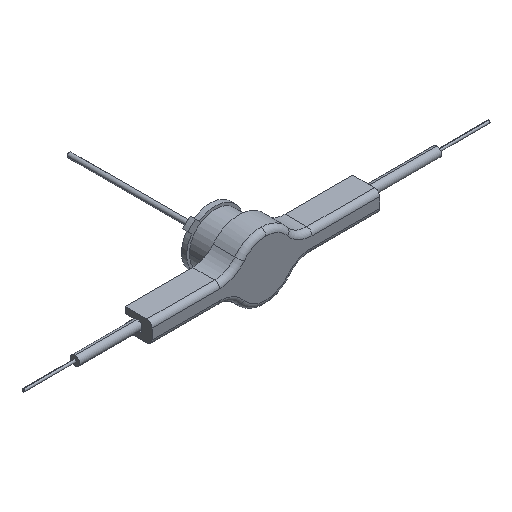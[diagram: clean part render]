
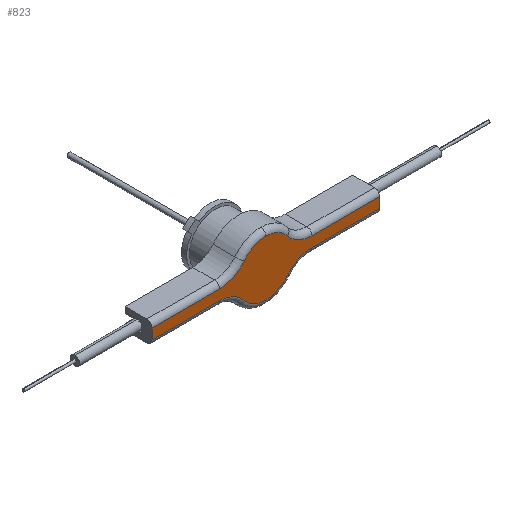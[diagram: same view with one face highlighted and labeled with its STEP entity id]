
A CAD part, isometric view. The second image highlights one B-rep face of the part: STEP entity #823.
In plain terms, the highlighted planar face has unit normal (0, -1, 0).
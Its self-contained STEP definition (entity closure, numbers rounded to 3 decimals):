
#10 = ORIENTED_EDGE ( 'NONE', *, *, #531, .T. ) ;
#11 = AXIS2_PLACEMENT_3D ( 'NONE', #841, #2144, #695 ) ;
#20 = DIRECTION ( 'NONE',  ( 0., -1., 0. ) ) ;
#29 = VECTOR ( 'NONE', #2217, 1000. ) ;
#35 = ORIENTED_EDGE ( 'NONE', *, *, #845, .F. ) ;
#41 = VECTOR ( 'NONE', #1302, 1000. ) ;
#120 = CARTESIAN_POINT ( 'NONE',  ( 0., 0., 2.675 ) ) ;
#133 = CIRCLE ( 'NONE', #1994, 3. ) ;
#145 = CARTESIAN_POINT ( 'NONE',  ( 4.467, 0., 3.5 ) ) ;
#166 = EDGE_CURVE ( 'NONE', #1052, #482, #2057, .T. ) ;
#192 = CARTESIAN_POINT ( 'NONE',  ( 0., 0., 0. ) ) ;
#194 = AXIS2_PLACEMENT_3D ( 'NONE', #1814, #720, #2054 ) ;
#230 = ORIENTED_EDGE ( 'NONE', *, *, #1255, .T. ) ;
#293 = ORIENTED_EDGE ( 'NONE', *, *, #1489, .T. ) ;
#343 = CARTESIAN_POINT ( 'NONE',  ( -4.467, 0., 0.5 ) ) ;
#398 = CARTESIAN_POINT ( 'NONE',  ( -11., 0., 0.5 ) ) ;
#408 = DIRECTION ( 'NONE',  ( 1., 0., 0. ) ) ;
#411 = VERTEX_POINT ( 'NONE', #1540 ) ;
#423 = CARTESIAN_POINT ( 'NONE',  ( 11., 0., -1. ) ) ;
#449 = CARTESIAN_POINT ( 'NONE',  ( 11., 0., 0.5 ) ) ;
#472 = CIRCLE ( 'NONE', #809, 2.675 ) ;
#481 = CARTESIAN_POINT ( 'NONE',  ( -11., 0., -0.5 ) ) ;
#482 = VERTEX_POINT ( 'NONE', #2264 ) ;
#493 = ORIENTED_EDGE ( 'NONE', *, *, #658, .T. ) ;
#507 = DIRECTION ( 'NONE',  ( 0., 0., 1. ) ) ;
#526 = CIRCLE ( 'NONE', #993, 2.675 ) ;
#531 = EDGE_CURVE ( 'NONE', #411, #1854, #2308, .T. ) ;
#643 = AXIS2_PLACEMENT_3D ( 'NONE', #2170, #906, #1612 ) ;
#646 = VECTOR ( 'NONE', #1938, 1000. ) ;
#658 = EDGE_CURVE ( 'NONE', #826, #2313, #2190, .T. ) ;
#682 = DIRECTION ( 'NONE',  ( 0., 0., 1. ) ) ;
#695 = DIRECTION ( 'NONE',  ( 0., 0., 1. ) ) ;
#720 = DIRECTION ( 'NONE',  ( 0., 1., 0. ) ) ;
#734 = LINE ( 'NONE', #1124, #1792 ) ;
#738 = DIRECTION ( 'NONE',  ( 0., 1., 0. ) ) ;
#783 = VERTEX_POINT ( 'NONE', #1245 ) ;
#796 = CARTESIAN_POINT ( 'NONE',  ( 0., 0., 0. ) ) ;
#804 = EDGE_CURVE ( 'NONE', #1659, #2014, #2186, .T. ) ;
#809 = AXIS2_PLACEMENT_3D ( 'NONE', #192, #20, #2220 ) ;
#810 = ORIENTED_EDGE ( 'NONE', *, *, #166, .F. ) ;
#818 = LINE ( 'NONE', #1839, #2187 ) ;
#823 = ADVANCED_FACE ( 'NONE', ( #2041 ), #2011, .F. ) ;
#826 = VERTEX_POINT ( 'NONE', #2206 ) ;
#837 = EDGE_CURVE ( 'NONE', #1231, #411, #472, .T. ) ;
#841 = CARTESIAN_POINT ( 'NONE',  ( 4.467, 0., -3.5 ) ) ;
#845 = EDGE_CURVE ( 'NONE', #1132, #2014, #1871, .T. ) ;
#872 = DIRECTION ( 'NONE',  ( 0., 1., 0. ) ) ;
#878 = AXIS2_PLACEMENT_3D ( 'NONE', #145, #2343, #507 ) ;
#882 = CARTESIAN_POINT ( 'NONE',  ( -4.467, 0., 3.5 ) ) ;
#906 = DIRECTION ( 'NONE',  ( 0., -1., 0. ) ) ;
#956 = ORIENTED_EDGE ( 'NONE', *, *, #1918, .T. ) ;
#974 = DIRECTION ( 'NONE',  ( 0., 0., 1. ) ) ;
#993 = AXIS2_PLACEMENT_3D ( 'NONE', #796, #2283, #974 ) ;
#1052 = VERTEX_POINT ( 'NONE', #449 ) ;
#1117 = DIRECTION ( 'NONE',  ( -1., 0., 0. ) ) ;
#1119 = LINE ( 'NONE', #1948, #646 ) ;
#1120 = DIRECTION ( 'NONE',  ( 0., 0., 1. ) ) ;
#1124 = CARTESIAN_POINT ( 'NONE',  ( 0., 0., -0.5 ) ) ;
#1132 = VERTEX_POINT ( 'NONE', #481 ) ;
#1140 = ORIENTED_EDGE ( 'NONE', *, *, #837, .T. ) ;
#1211 = CARTESIAN_POINT ( 'NONE',  ( -2.106, 0., -1.65 ) ) ;
#1213 = CIRCLE ( 'NONE', #194, 3. ) ;
#1231 = VERTEX_POINT ( 'NONE', #1211 ) ;
#1245 = CARTESIAN_POINT ( 'NONE',  ( -4.467, 0., -0.5 ) ) ;
#1255 = EDGE_CURVE ( 'NONE', #1132, #783, #1119, .T. ) ;
#1274 = CARTESIAN_POINT ( 'NONE',  ( 4.467, 0., -0.5 ) ) ;
#1302 = DIRECTION ( 'NONE',  ( 0., 0., -1. ) ) ;
#1309 = ORIENTED_EDGE ( 'NONE', *, *, #1710, .T. ) ;
#1337 = ORIENTED_EDGE ( 'NONE', *, *, #1677, .T. ) ;
#1369 = ORIENTED_EDGE ( 'NONE', *, *, #1567, .T. ) ;
#1377 = EDGE_CURVE ( 'NONE', #1052, #2065, #818, .T. ) ;
#1469 = CARTESIAN_POINT ( 'NONE',  ( 0., 0., 0.5 ) ) ;
#1489 = EDGE_CURVE ( 'NONE', #1854, #482, #734, .T. ) ;
#1520 = CIRCLE ( 'NONE', #878, 3. ) ;
#1540 = CARTESIAN_POINT ( 'NONE',  ( 2.106, 0., -1.65 ) ) ;
#1567 = EDGE_CURVE ( 'NONE', #2313, #2199, #526, .T. ) ;
#1612 = DIRECTION ( 'NONE',  ( 0., 0., 1. ) ) ;
#1623 = ORIENTED_EDGE ( 'NONE', *, *, #1377, .T. ) ;
#1639 = VECTOR ( 'NONE', #1653, 1000. ) ;
#1653 = DIRECTION ( 'NONE',  ( 0., 0., 1. ) ) ;
#1659 = VERTEX_POINT ( 'NONE', #343 ) ;
#1677 = EDGE_CURVE ( 'NONE', #2199, #1659, #133, .T. ) ;
#1710 = EDGE_CURVE ( 'NONE', #2065, #826, #1520, .T. ) ;
#1792 = VECTOR ( 'NONE', #408, 1000. ) ;
#1814 = CARTESIAN_POINT ( 'NONE',  ( -4.467, 0., -3.5 ) ) ;
#1834 = CARTESIAN_POINT ( 'NONE',  ( 0., 0., 0. ) ) ;
#1839 = CARTESIAN_POINT ( 'NONE',  ( 0., 0., 0.5 ) ) ;
#1852 = CARTESIAN_POINT ( 'NONE',  ( 4.467, 0., 0.5 ) ) ;
#1854 = VERTEX_POINT ( 'NONE', #1274 ) ;
#1856 = CARTESIAN_POINT ( 'NONE',  ( -11., 0., -1. ) ) ;
#1871 = LINE ( 'NONE', #1856, #1639 ) ;
#1918 = EDGE_CURVE ( 'NONE', #783, #1231, #1213, .T. ) ;
#1933 = EDGE_LOOP ( 'NONE', ( #10, #293, #810, #1623, #1309, #493, #1369, #1337, #2172, #35, #230, #956, #1140 ) ) ;
#1938 = DIRECTION ( 'NONE',  ( 1., 0., 0. ) ) ;
#1948 = CARTESIAN_POINT ( 'NONE',  ( 0., 0., -0.5 ) ) ;
#1994 = AXIS2_PLACEMENT_3D ( 'NONE', #882, #872, #682 ) ;
#2011 = PLANE ( 'NONE',  #2035 ) ;
#2014 = VERTEX_POINT ( 'NONE', #398 ) ;
#2035 = AXIS2_PLACEMENT_3D ( 'NONE', #1834, #738, #1120 ) ;
#2041 = FACE_OUTER_BOUND ( 'NONE', #1933, .T. ) ;
#2054 = DIRECTION ( 'NONE',  ( 0., 0., 1. ) ) ;
#2057 = LINE ( 'NONE', #423, #41 ) ;
#2065 = VERTEX_POINT ( 'NONE', #1852 ) ;
#2144 = DIRECTION ( 'NONE',  ( 0., 1., 0. ) ) ;
#2170 = CARTESIAN_POINT ( 'NONE',  ( 0., 0., 0. ) ) ;
#2172 = ORIENTED_EDGE ( 'NONE', *, *, #804, .T. ) ;
#2186 = LINE ( 'NONE', #1469, #29 ) ;
#2187 = VECTOR ( 'NONE', #1117, 1000. ) ;
#2190 = CIRCLE ( 'NONE', #643, 2.675 ) ;
#2199 = VERTEX_POINT ( 'NONE', #2269 ) ;
#2206 = CARTESIAN_POINT ( 'NONE',  ( 2.106, 0., 1.65 ) ) ;
#2217 = DIRECTION ( 'NONE',  ( -1., 0., 0. ) ) ;
#2220 = DIRECTION ( 'NONE',  ( 0., 0., 1. ) ) ;
#2264 = CARTESIAN_POINT ( 'NONE',  ( 11., 0., -0.5 ) ) ;
#2269 = CARTESIAN_POINT ( 'NONE',  ( -2.106, 0., 1.65 ) ) ;
#2283 = DIRECTION ( 'NONE',  ( 0., -1., 0. ) ) ;
#2308 = CIRCLE ( 'NONE', #11, 3. ) ;
#2313 = VERTEX_POINT ( 'NONE', #120 ) ;
#2343 = DIRECTION ( 'NONE',  ( 0., 1., 0. ) ) ;
